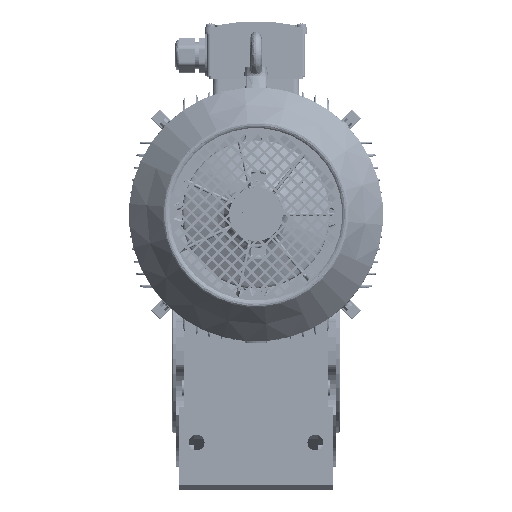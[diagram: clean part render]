
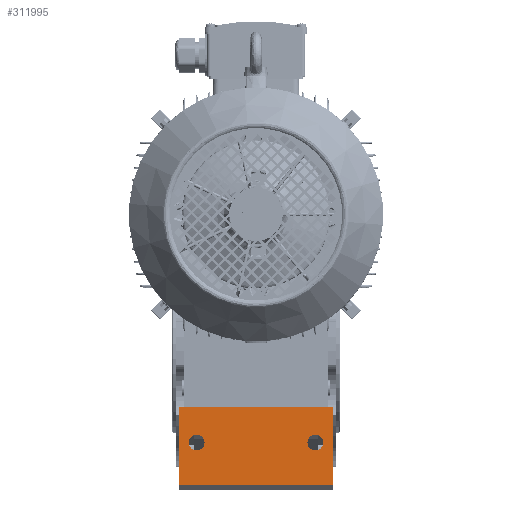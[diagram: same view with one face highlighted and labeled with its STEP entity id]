
A CAD part, top view. The second image highlights one B-rep face of the part: STEP entity #311995.
In plain terms, the highlighted planar face has unit normal (0, 0, 1).
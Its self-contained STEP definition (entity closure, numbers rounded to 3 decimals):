
#11729 = AXIS2_PLACEMENT_3D ( 'NONE', #192291, #192294, #192297 ) ;
#11735 = AXIS2_PLACEMENT_3D ( 'NONE', #192442, #192446, #192448 ) ;
#49718 = VERTEX_POINT ( 'NONE', #87526 ) ;
#49725 = VERTEX_POINT ( 'NONE', #87531 ) ;
#49791 = VERTEX_POINT ( 'NONE', #87588 ) ;
#49797 = VERTEX_POINT ( 'NONE', #87592 ) ;
#50362 = VERTEX_POINT ( 'NONE', #88299 ) ;
#50373 = VERTEX_POINT ( 'NONE', #88310 ) ;
#51903 = VERTEX_POINT ( 'NONE', #89213 ) ;
#51948 = VERTEX_POINT ( 'NONE', #89252 ) ;
#81083 = DIRECTION ( 'NONE',  ( 0., -1., 0. ) ) ;
#81157 = CARTESIAN_POINT ( 'NONE',  ( -60., -100., 145. ) ) ;
#81163 = DIRECTION ( 'NONE',  ( 0., 0., -1. ) ) ;
#81169 = DIRECTION ( 'NONE',  ( 1., 0., 0. ) ) ;
#81174 = CARTESIAN_POINT ( 'NONE',  ( 77.5, 19.5, 145. ) ) ;
#81179 = CARTESIAN_POINT ( 'NONE',  ( -77.5, 19.5, 145. ) ) ;
#81185 = CARTESIAN_POINT ( 'NONE',  ( 60., -100., 145. ) ) ;
#81190 = DIRECTION ( 'NONE',  ( 0., 0., -1. ) ) ;
#81195 = DIRECTION ( 'NONE',  ( 1., 0., 0. ) ) ;
#81206 = DIRECTION ( 'NONE',  ( 0., -1., 0. ) ) ;
#81221 = CARTESIAN_POINT ( 'NONE',  ( -77.5, -64., 145. ) ) ;
#81231 = DIRECTION ( 'NONE',  ( 1., 0., 0. ) ) ;
#84198 = CIRCLE ( 'NONE', #87310, 8. ) ;
#84206 = CIRCLE ( 'NONE', #87306, 8. ) ;
#84211 = LINE ( 'NONE', #81179, #84224 ) ;
#84215 = LINE ( 'NONE', #81174, #84232 ) ;
#84224 = VECTOR ( 'NONE', #81083, 1000. ) ;
#84228 = LINE ( 'NONE', #81221, #84241 ) ;
#84232 = VECTOR ( 'NONE', #81206, 1000. ) ;
#84241 = VECTOR ( 'NONE', #81231, 1000. ) ;
#87306 = AXIS2_PLACEMENT_3D ( 'NONE', #81157, #81163, #81169 ) ;
#87310 = AXIS2_PLACEMENT_3D ( 'NONE', #81185, #81190, #81195 ) ;
#87526 = CARTESIAN_POINT ( 'NONE',  ( 68., -100., 145. ) ) ;
#87531 = CARTESIAN_POINT ( 'NONE',  ( 52., -100., 145. ) ) ;
#87588 = CARTESIAN_POINT ( 'NONE',  ( -52., -100., 145. ) ) ;
#87592 = CARTESIAN_POINT ( 'NONE',  ( -68., -100., 145. ) ) ;
#88299 = CARTESIAN_POINT ( 'NONE',  ( -77.5, -143.12, 145. ) ) ;
#88310 = CARTESIAN_POINT ( 'NONE',  ( 77.5, -143.12, 145. ) ) ;
#89213 = CARTESIAN_POINT ( 'NONE',  ( -77.5, -64., 145. ) ) ;
#89252 = CARTESIAN_POINT ( 'NONE',  ( 77.5, -64., 145. ) ) ;
#113402 = EDGE_CURVE ( 'NONE', #49797, #49791, #84206, .T. ) ;
#113406 = EDGE_CURVE ( 'NONE', #49725, #49718, #84198, .T. ) ;
#113409 = EDGE_CURVE ( 'NONE', #51903, #50362, #84211, .T. ) ;
#113413 = EDGE_CURVE ( 'NONE', #51948, #50373, #84215, .T. ) ;
#113417 = EDGE_CURVE ( 'NONE', #51903, #51948, #84228, .T. ) ;
#162819 = AXIS2_PLACEMENT_3D ( 'NONE', #222946, #222934, #222951 ) ;
#178276 = EDGE_LOOP ( 'NONE', ( #263670, #263681 ) ) ;
#178308 = EDGE_LOOP ( 'NONE', ( #263709, #263719, #263730, #263741 ) ) ;
#178316 = EDGE_LOOP ( 'NONE', ( #263691, #263702 ) ) ;
#189796 = CIRCLE ( 'NONE', #11729, 8. ) ;
#189836 = CIRCLE ( 'NONE', #11735, 8. ) ;
#190186 = LINE ( 'NONE', #194243, #190189 ) ;
#190189 = VECTOR ( 'NONE', #194248, 1000. ) ;
#192291 = CARTESIAN_POINT ( 'NONE',  ( 60., -100., 145. ) ) ;
#192294 = DIRECTION ( 'NONE',  ( 0., 0., -1. ) ) ;
#192297 = DIRECTION ( 'NONE',  ( 1., 0., 0. ) ) ;
#192442 = CARTESIAN_POINT ( 'NONE',  ( -60., -100., 145. ) ) ;
#192446 = DIRECTION ( 'NONE',  ( 0., 0., -1. ) ) ;
#192448 = DIRECTION ( 'NONE',  ( 1., 0., 0. ) ) ;
#194243 = CARTESIAN_POINT ( 'NONE',  ( 0., -143.12, 145. ) ) ;
#194248 = DIRECTION ( 'NONE',  ( 1., 0., 0. ) ) ;
#194502 = FACE_BOUND ( 'NONE', #178276, .T. ) ;
#194585 = FACE_OUTER_BOUND ( 'NONE', #178308, .T. ) ;
#194592 = FACE_BOUND ( 'NONE', #178316, .T. ) ;
#222934 = DIRECTION ( 'NONE',  ( 0., 0., 1. ) ) ;
#222946 = CARTESIAN_POINT ( 'NONE',  ( 0., 0., 145. ) ) ;
#222948 = PLANE ( 'NONE',  #162819 ) ;
#222951 = DIRECTION ( 'NONE',  ( 1., 0., 0. ) ) ;
#263670 = ORIENTED_EDGE ( 'NONE', *, *, #326552, .T. ) ;
#263681 = ORIENTED_EDGE ( 'NONE', *, *, #113402, .T. ) ;
#263691 = ORIENTED_EDGE ( 'NONE', *, *, #326497, .T. ) ;
#263702 = ORIENTED_EDGE ( 'NONE', *, *, #113406, .T. ) ;
#263709 = ORIENTED_EDGE ( 'NONE', *, *, #113409, .T. ) ;
#263719 = ORIENTED_EDGE ( 'NONE', *, *, #326976, .T. ) ;
#263730 = ORIENTED_EDGE ( 'NONE', *, *, #113413, .F. ) ;
#263741 = ORIENTED_EDGE ( 'NONE', *, *, #113417, .F. ) ;
#311995 = ADVANCED_FACE ( 'NONE', ( #194502, #194592, #194585 ), #222948, .T. ) ;
#326497 = EDGE_CURVE ( 'NONE', #49718, #49725, #189796, .T. ) ;
#326552 = EDGE_CURVE ( 'NONE', #49791, #49797, #189836, .T. ) ;
#326976 = EDGE_CURVE ( 'NONE', #50362, #50373, #190186, .T. ) ;
